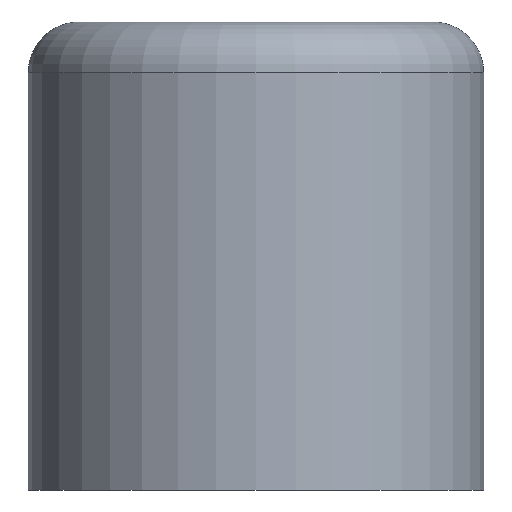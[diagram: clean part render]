
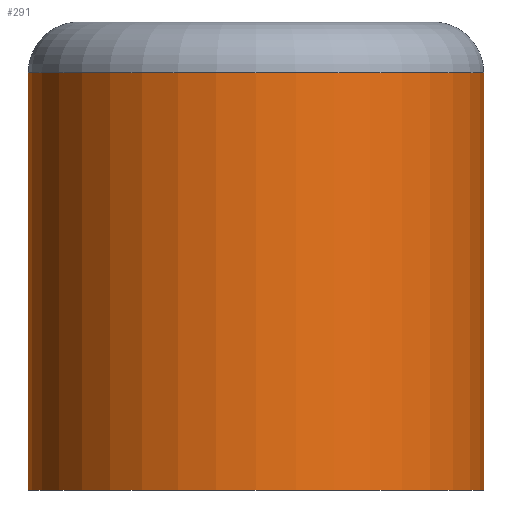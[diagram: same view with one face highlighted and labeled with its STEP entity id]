
A CAD part, front view. The second image highlights one B-rep face of the part: STEP entity #291.
In plain terms, the highlighted cylindrical face has radius 9 mm (diameter 18 mm), a full revolution.
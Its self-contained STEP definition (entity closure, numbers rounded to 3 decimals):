
#219=CARTESIAN_POINT('',(727.875,-23.604,21.71));
#220=VERTEX_POINT('',#219);
#221=CARTESIAN_POINT('',(727.875,-41.604,21.71));
#222=VERTEX_POINT('',#221);
#223=CARTESIAN_POINT('',(727.875,-32.604,21.71));
#224=DIRECTION('',(0.,0.,1.));
#225=DIRECTION('',(0.,-1.,0.));
#226=AXIS2_PLACEMENT_3D('',#223,#224,#225);
#227=CIRCLE('',#226,9.);
#228=EDGE_CURVE('',#220,#222,#227,.T.);
#230=CARTESIAN_POINT('',(727.875,-32.604,21.71));
#231=DIRECTION('',(0.,0.,1.));
#232=DIRECTION('',(0.,-1.,0.));
#233=AXIS2_PLACEMENT_3D('',#230,#231,#232);
#234=CIRCLE('',#233,9.);
#235=EDGE_CURVE('',#222,#220,#234,.T.);
#257=CARTESIAN_POINT('',(727.875,-32.604,40.21));
#258=DIRECTION('',(-0.,-0.,-1.));
#259=DIRECTION('',(0.,1.,-0.));
#260=AXIS2_PLACEMENT_3D('',#257,#258,#259);
#261=CYLINDRICAL_SURFACE('',#260,9.);
#262=CARTESIAN_POINT('',(727.875,-23.604,38.21));
#263=VERTEX_POINT('',#262);
#264=CARTESIAN_POINT('',(727.875,-23.604,21.71));
#265=DIRECTION('',(0.,0.,1.));
#266=VECTOR('',#265,16.5);
#267=LINE('',#264,#266);
#268=EDGE_CURVE('',#220,#263,#267,.T.);
#269=ORIENTED_EDGE('',*,*,#268,.T.);
#270=CARTESIAN_POINT('',(727.875,-41.604,38.21));
#271=VERTEX_POINT('',#270);
#272=CARTESIAN_POINT('',(727.875,-32.604,38.21));
#273=DIRECTION('',(-0.,-0.,-1.));
#274=DIRECTION('',(0.,-1.,0.));
#275=AXIS2_PLACEMENT_3D('',#272,#273,#274);
#276=CIRCLE('',#275,9.);
#277=EDGE_CURVE('',#263,#271,#276,.T.);
#278=ORIENTED_EDGE('',*,*,#277,.T.);
#279=CARTESIAN_POINT('',(727.875,-32.604,38.21));
#280=DIRECTION('',(-0.,-0.,-1.));
#281=DIRECTION('',(0.,-1.,0.));
#282=AXIS2_PLACEMENT_3D('',#279,#280,#281);
#283=CIRCLE('',#282,9.);
#284=EDGE_CURVE('',#271,#263,#283,.T.);
#285=ORIENTED_EDGE('',*,*,#284,.T.);
#286=ORIENTED_EDGE('',*,*,#268,.F.);
#287=ORIENTED_EDGE('',*,*,#228,.T.);
#288=ORIENTED_EDGE('',*,*,#235,.T.);
#289=EDGE_LOOP('',(#269,#278,#285,#286,#287,#288));
#290=FACE_BOUND('',#289,.T.);
#291=ADVANCED_FACE('',(#290),#261,.T.);
